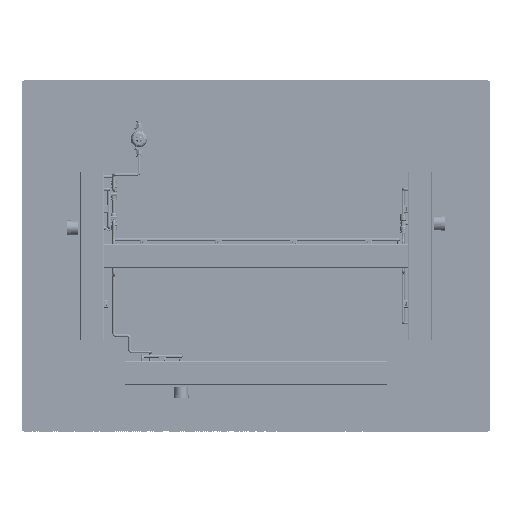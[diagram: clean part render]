
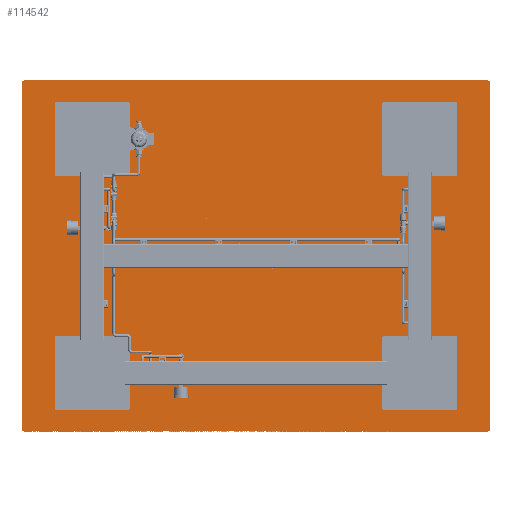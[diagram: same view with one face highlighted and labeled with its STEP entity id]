
A CAD part, front view. The second image highlights one B-rep face of the part: STEP entity #114542.
In plain terms, the highlighted planar face has unit normal (0, -1, 0).
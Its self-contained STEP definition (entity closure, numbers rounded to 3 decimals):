
#6112 = ORIENTED_EDGE ( 'NONE', *, *, #145390, .F. ) ;
#10811 = CIRCLE ( 'NONE', #152936, 5. ) ;
#11917 = VECTOR ( 'NONE', #160796, 1000. ) ;
#12386 = VERTEX_POINT ( 'NONE', #129312 ) ;
#13177 = CARTESIAN_POINT ( 'NONE',  ( 495., 700., 370. ) ) ;
#18646 = ORIENTED_EDGE ( 'NONE', *, *, #123810, .F. ) ;
#20168 = CARTESIAN_POINT ( 'NONE',  ( -500., 700., 370. ) ) ;
#21642 = EDGE_CURVE ( 'NONE', #288197, #190634, #10811, .T. ) ;
#22703 = EDGE_CURVE ( 'NONE', #239169, #234644, #319528, .T. ) ;
#29036 = CARTESIAN_POINT ( 'NONE',  ( -495., 700., -370. ) ) ;
#32476 = CARTESIAN_POINT ( 'NONE',  ( -495., 700., 370. ) ) ;
#35257 = FACE_OUTER_BOUND ( 'NONE', #196104, .T. ) ;
#41533 = DIRECTION ( 'NONE',  ( 1., 0., 0. ) ) ;
#42519 = CARTESIAN_POINT ( 'NONE',  ( 500., 700., 370. ) ) ;
#46571 = EDGE_CURVE ( 'NONE', #354410, #89910, #190202, .T. ) ;
#49334 = ORIENTED_EDGE ( 'NONE', *, *, #22703, .F. ) ;
#50916 = DIRECTION ( 'NONE',  ( -1., 0., 0. ) ) ;
#57356 = DIRECTION ( 'NONE',  ( -1., 0., 0. ) ) ;
#60813 = DIRECTION ( 'NONE',  ( -1., 0., 0. ) ) ;
#71168 = DIRECTION ( 'NONE',  ( 0., 0., -1. ) ) ;
#77156 = EDGE_CURVE ( 'NONE', #89910, #239169, #358664, .T. ) ;
#78434 = CARTESIAN_POINT ( 'NONE',  ( -495., 700., 375. ) ) ;
#89910 = VERTEX_POINT ( 'NONE', #42519 ) ;
#90220 = CIRCLE ( 'NONE', #336897, 5. ) ;
#99403 = DIRECTION ( 'NONE',  ( 0., -1., 0. ) ) ;
#102612 = CARTESIAN_POINT ( 'NONE',  ( 495., 700., -375. ) ) ;
#114542 = ADVANCED_FACE ( 'NONE', ( #35257 ), #240167, .T. ) ;
#120523 = DIRECTION ( 'NONE',  ( 0., 1., 0. ) ) ;
#123810 = EDGE_CURVE ( 'NONE', #237746, #288197, #162011, .T. ) ;
#129312 = CARTESIAN_POINT ( 'NONE',  ( -495., 700., -375. ) ) ;
#133203 = VECTOR ( 'NONE', #71168, 1000. ) ;
#143759 = AXIS2_PLACEMENT_3D ( 'NONE', #289751, #120523, #318232 ) ;
#145390 = EDGE_CURVE ( 'NONE', #234644, #12386, #230164, .T. ) ;
#152936 = AXIS2_PLACEMENT_3D ( 'NONE', #32476, #229992, #60813 ) ;
#154958 = VECTOR ( 'NONE', #50916, 1000. ) ;
#156422 = EDGE_CURVE ( 'NONE', #12386, #237746, #90220, .T. ) ;
#160796 = DIRECTION ( 'NONE',  ( 0., 0., 1. ) ) ;
#162011 = LINE ( 'NONE', #20168, #11917 ) ;
#166611 = CARTESIAN_POINT ( 'NONE',  ( -500., 700., -370. ) ) ;
#183273 = CARTESIAN_POINT ( 'NONE',  ( 495., 700., -370. ) ) ;
#185581 = EDGE_CURVE ( 'NONE', #190634, #354410, #308072, .T. ) ;
#190202 = CIRCLE ( 'NONE', #224096, 5. ) ;
#190634 = VERTEX_POINT ( 'NONE', #220341 ) ;
#196104 = EDGE_LOOP ( 'NONE', ( #49334, #355253, #302270, #243719, #289025, #18646, #328462, #6112 ) ) ;
#210232 = CARTESIAN_POINT ( 'NONE',  ( -500., 700., 370. ) ) ;
#210701 = DIRECTION ( 'NONE',  ( 0., 1., 0. ) ) ;
#213139 = CARTESIAN_POINT ( 'NONE',  ( 500., 700., 370. ) ) ;
#220341 = CARTESIAN_POINT ( 'NONE',  ( -495., 700., 375. ) ) ;
#224096 = AXIS2_PLACEMENT_3D ( 'NONE', #13177, #210701, #41533 ) ;
#226505 = DIRECTION ( 'NONE',  ( 0., 1., 0. ) ) ;
#229992 = DIRECTION ( 'NONE',  ( 0., 1., 0. ) ) ;
#230164 = LINE ( 'NONE', #332572, #154958 ) ;
#232874 = VECTOR ( 'NONE', #332904, 1000. ) ;
#234644 = VERTEX_POINT ( 'NONE', #102612 ) ;
#237746 = VERTEX_POINT ( 'NONE', #166611 ) ;
#239169 = VERTEX_POINT ( 'NONE', #268058 ) ;
#240167 = PLANE ( 'NONE',  #279670 ) ;
#243719 = ORIENTED_EDGE ( 'NONE', *, *, #185581, .F. ) ;
#268058 = CARTESIAN_POINT ( 'NONE',  ( 500., 700., -370. ) ) ;
#279670 = AXIS2_PLACEMENT_3D ( 'NONE', #183273, #99403, #297059 ) ;
#288197 = VERTEX_POINT ( 'NONE', #210232 ) ;
#289025 = ORIENTED_EDGE ( 'NONE', *, *, #21642, .F. ) ;
#289751 = CARTESIAN_POINT ( 'NONE',  ( 495., 700., -370. ) ) ;
#297059 = DIRECTION ( 'NONE',  ( -1., 0., 0. ) ) ;
#299917 = CARTESIAN_POINT ( 'NONE',  ( 495., 700., 375. ) ) ;
#302270 = ORIENTED_EDGE ( 'NONE', *, *, #46571, .F. ) ;
#308072 = LINE ( 'NONE', #78434, #232874 ) ;
#318232 = DIRECTION ( 'NONE',  ( -1., 0., 0. ) ) ;
#319528 = CIRCLE ( 'NONE', #143759, 5. ) ;
#328462 = ORIENTED_EDGE ( 'NONE', *, *, #156422, .F. ) ;
#332572 = CARTESIAN_POINT ( 'NONE',  ( -495., 700., -375. ) ) ;
#332904 = DIRECTION ( 'NONE',  ( 1., 0., 0. ) ) ;
#336897 = AXIS2_PLACEMENT_3D ( 'NONE', #29036, #226505, #57356 ) ;
#354410 = VERTEX_POINT ( 'NONE', #299917 ) ;
#355253 = ORIENTED_EDGE ( 'NONE', *, *, #77156, .F. ) ;
#358664 = LINE ( 'NONE', #213139, #133203 ) ;
